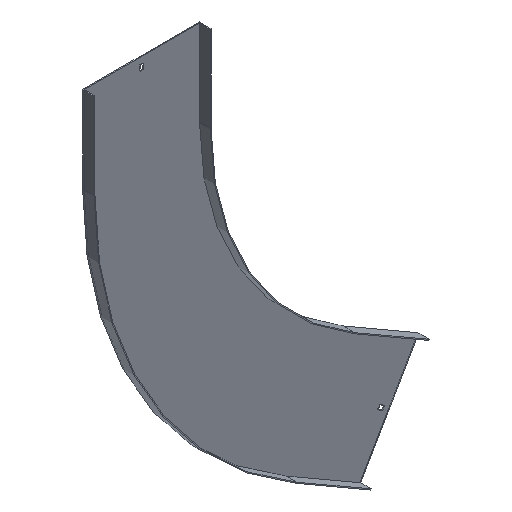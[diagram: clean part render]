
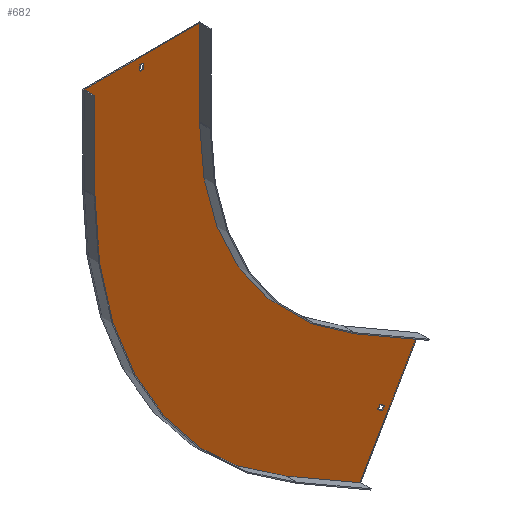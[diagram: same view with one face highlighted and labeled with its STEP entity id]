
A CAD part, isometric view. The second image highlights one B-rep face of the part: STEP entity #682.
In plain terms, the highlighted planar face has unit normal (0, -1, 0).
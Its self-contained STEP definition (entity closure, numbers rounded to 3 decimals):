
#3 = VERTEX_POINT ( 'NONE', #848 ) ;
#4 = DIRECTION ( 'NONE',  ( 1., 0., 0. ) ) ;
#10 = CARTESIAN_POINT ( 'NONE',  ( 0., -1.5, 0. ) ) ;
#11 = ORIENTED_EDGE ( 'NONE', *, *, #254, .F. ) ;
#17 = CARTESIAN_POINT ( 'NONE',  ( -500., -1.5, 0. ) ) ;
#25 = ORIENTED_EDGE ( 'NONE', *, *, #266, .F. ) ;
#45 = ORIENTED_EDGE ( 'NONE', *, *, #577, .F. ) ;
#53 = EDGE_CURVE ( 'NONE', #135, #346, #319, .T. ) ;
#65 = LINE ( 'NONE', #584, #726 ) ;
#68 = CARTESIAN_POINT ( 'NONE',  ( 119.512, -1.5, -69. ) ) ;
#70 = LINE ( 'NONE', #600, #640 ) ;
#71 = CARTESIAN_POINT ( 'NONE',  ( -182.113, -1.5, -591.43 ) ) ;
#73 = VERTEX_POINT ( 'NONE', #583 ) ;
#75 = CARTESIAN_POINT ( 'NONE',  ( 111.717, -1.5, -64.5 ) ) ;
#77 = CIRCLE ( 'NONE', #586, 700. ) ;
#85 = FACE_BOUND ( 'NONE', #338, .T. ) ;
#93 = VERTEX_POINT ( 'NONE', #781 ) ;
#103 = LINE ( 'NONE', #755, #592 ) ;
#128 = CARTESIAN_POINT ( 'NONE',  ( -220.096, -1.5, -681.218 ) ) ;
#130 = EDGE_LOOP ( 'NONE', ( #837, #552, #339, #220 ) ) ;
#135 = VERTEX_POINT ( 'NONE', #128 ) ;
#136 = LINE ( 'NONE', #821, #257 ) ;
#141 = LINE ( 'NONE', #466, #342 ) ;
#154 = DIRECTION ( 'NONE',  ( 0.866, 0., -0.5 ) ) ;
#156 = DIRECTION ( 'NONE',  ( 0., 0., -1. ) ) ;
#166 = VECTOR ( 'NONE', #846, 1000. ) ;
#167 = VERTEX_POINT ( 'NONE', #71 ) ;
#204 = EDGE_LOOP ( 'NONE', ( #567, #430, #11, #747, #710, #45, #490, #25 ) ) ;
#206 = CARTESIAN_POINT ( 'NONE',  ( -500., -1.5, 150. ) ) ;
#210 = DIRECTION ( 'NONE',  ( -0.5, 0., -0.866 ) ) ;
#214 = VERTEX_POINT ( 'NONE', #749 ) ;
#216 = DIRECTION ( 'NONE',  ( -0.5, 0., -0.866 ) ) ;
#220 = ORIENTED_EDGE ( 'NONE', *, *, #740, .F. ) ;
#228 = DIRECTION ( 'NONE',  ( 0., 0., 1. ) ) ;
#233 = VERTEX_POINT ( 'NONE', #288 ) ;
#235 = CIRCLE ( 'NONE', #669, 500. ) ;
#236 = CARTESIAN_POINT ( 'NONE',  ( -298.375, -1.5, -516.801 ) ) ;
#254 = EDGE_CURVE ( 'NONE', #346, #3, #77, .T. ) ;
#257 = VECTOR ( 'NONE', #672, 1000. ) ;
#266 = EDGE_CURVE ( 'NONE', #233, #762, #663, .T. ) ;
#272 = EDGE_CURVE ( 'NONE', #214, #167, #141, .T. ) ;
#279 = LINE ( 'NONE', #471, #785 ) ;
#288 = CARTESIAN_POINT ( 'NONE',  ( -500., -1.5, 150. ) ) ;
#291 = CARTESIAN_POINT ( 'NONE',  ( 0., -1.5, 0. ) ) ;
#299 = EDGE_CURVE ( 'NONE', #768, #646, #279, .T. ) ;
#302 = CARTESIAN_POINT ( 'NONE',  ( -178.863, -1.5, -585.801 ) ) ;
#304 = EDGE_CURVE ( 'NONE', #167, #649, #480, .T. ) ;
#319 = LINE ( 'NONE', #792, #387 ) ;
#326 = DIRECTION ( 'NONE',  ( 1., 0., 0. ) ) ;
#329 = EDGE_CURVE ( 'NONE', #535, #135, #397, .T. ) ;
#338 = EDGE_LOOP ( 'NONE', ( #654, #613, #604, #579 ) ) ;
#339 = ORIENTED_EDGE ( 'NONE', *, *, #272, .F. ) ;
#340 = EDGE_CURVE ( 'NONE', #760, #768, #136, .T. ) ;
#342 = VECTOR ( 'NONE', #757, 1000. ) ;
#343 = DIRECTION ( 'NONE',  ( 0., 0., -1. ) ) ;
#345 = LINE ( 'NONE', #566, #166 ) ;
#346 = VERTEX_POINT ( 'NONE', #753 ) ;
#353 = DIRECTION ( 'NONE',  ( 0., 1., 0. ) ) ;
#355 = PLANE ( 'NONE',  #805 ) ;
#369 = EDGE_CURVE ( 'NONE', #646, #73, #70, .T. ) ;
#387 = VECTOR ( 'NONE', #854, 1000. ) ;
#397 = LINE ( 'NONE', #545, #680 ) ;
#405 = LINE ( 'NONE', #236, #616 ) ;
#414 = DIRECTION ( 'NONE',  ( 0., 0., -1. ) ) ;
#422 = LINE ( 'NONE', #688, #546 ) ;
#430 = ORIENTED_EDGE ( 'NONE', *, *, #467, .F. ) ;
#443 = VECTOR ( 'NONE', #216, 1000. ) ;
#448 = DIRECTION ( 'NONE',  ( 0., 0., -1. ) ) ;
#451 = EDGE_CURVE ( 'NONE', #762, #526, #235, .T. ) ;
#466 = CARTESIAN_POINT ( 'NONE',  ( -301.625, -1.5, -522.43 ) ) ;
#467 = EDGE_CURVE ( 'NONE', #3, #93, #422, .T. ) ;
#471 = CARTESIAN_POINT ( 'NONE',  ( -603.25, -1.5, 0. ) ) ;
#479 = CARTESIAN_POINT ( 'NONE',  ( -120.096, -1.5, -508.013 ) ) ;
#480 = LINE ( 'NONE', #68, #775 ) ;
#481 = CARTESIAN_POINT ( 'NONE',  ( -186.658, -1.5, -581.301 ) ) ;
#490 = ORIENTED_EDGE ( 'NONE', *, *, #451, .F. ) ;
#496 = FACE_BOUND ( 'NONE', #130, .T. ) ;
#512 = CARTESIAN_POINT ( 'NONE',  ( 0., -1.5, 0. ) ) ;
#526 = VERTEX_POINT ( 'NONE', #554 ) ;
#530 = VECTOR ( 'NONE', #343, 1000. ) ;
#535 = VERTEX_POINT ( 'NONE', #479 ) ;
#545 = CARTESIAN_POINT ( 'NONE',  ( -119.346, -1.5, -506.714 ) ) ;
#546 = VECTOR ( 'NONE', #228, 1000. ) ;
#552 = ORIENTED_EDGE ( 'NONE', *, *, #304, .F. ) ;
#554 = CARTESIAN_POINT ( 'NONE',  ( -250., -1.5, -433.013 ) ) ;
#566 = CARTESIAN_POINT ( 'NONE',  ( -596.75, -1.5, 0. ) ) ;
#567 = ORIENTED_EDGE ( 'NONE', *, *, #824, .F. ) ;
#577 = EDGE_CURVE ( 'NONE', #526, #535, #103, .T. ) ;
#579 = ORIENTED_EDGE ( 'NONE', *, *, #299, .T. ) ;
#583 = CARTESIAN_POINT ( 'NONE',  ( -596.75, -1.5, 138. ) ) ;
#584 = CARTESIAN_POINT ( 'NONE',  ( -701.5, -1.5, 150. ) ) ;
#586 = AXIS2_PLACEMENT_3D ( 'NONE', #10, #353, #414 ) ;
#592 = VECTOR ( 'NONE', #154, 1000. ) ;
#600 = CARTESIAN_POINT ( 'NONE',  ( 0., -1.5, 138. ) ) ;
#603 = DIRECTION ( 'NONE',  ( -0.866, 0., 0.5 ) ) ;
#604 = ORIENTED_EDGE ( 'NONE', *, *, #340, .T. ) ;
#607 = CARTESIAN_POINT ( 'NONE',  ( -596.75, -1.5, 129. ) ) ;
#613 = ORIENTED_EDGE ( 'NONE', *, *, #659, .T. ) ;
#616 = VECTOR ( 'NONE', #603, 1000. ) ;
#618 = CARTESIAN_POINT ( 'NONE',  ( -603.25, -1.5, 129. ) ) ;
#619 = CARTESIAN_POINT ( 'NONE',  ( -603.25, -1.5, 138. ) ) ;
#640 = VECTOR ( 'NONE', #326, 1000. ) ;
#646 = VERTEX_POINT ( 'NONE', #619 ) ;
#649 = VERTEX_POINT ( 'NONE', #302 ) ;
#654 = ORIENTED_EDGE ( 'NONE', *, *, #369, .T. ) ;
#659 = EDGE_CURVE ( 'NONE', #73, #760, #345, .T. ) ;
#663 = LINE ( 'NONE', #206, #530 ) ;
#669 = AXIS2_PLACEMENT_3D ( 'NONE', #512, #782, #448 ) ;
#672 = DIRECTION ( 'NONE',  ( -1., 0., 0. ) ) ;
#678 = LINE ( 'NONE', #75, #443 ) ;
#680 = VECTOR ( 'NONE', #210, 1000. ) ;
#682 = ADVANCED_FACE ( 'NONE', ( #496, #685, #85 ), #355, .T. ) ;
#685 = FACE_OUTER_BOUND ( 'NONE', #204, .T. ) ;
#688 = CARTESIAN_POINT ( 'NONE',  ( -700., -1.5, 0. ) ) ;
#710 = ORIENTED_EDGE ( 'NONE', *, *, #329, .F. ) ;
#726 = VECTOR ( 'NONE', #4, 1000. ) ;
#740 = EDGE_CURVE ( 'NONE', #752, #214, #678, .T. ) ;
#747 = ORIENTED_EDGE ( 'NONE', *, *, #53, .F. ) ;
#749 = CARTESIAN_POINT ( 'NONE',  ( -189.908, -1.5, -586.93 ) ) ;
#752 = VERTEX_POINT ( 'NONE', #481 ) ;
#753 = CARTESIAN_POINT ( 'NONE',  ( -350., -1.5, -606.218 ) ) ;
#755 = CARTESIAN_POINT ( 'NONE',  ( -250., -1.5, -433.013 ) ) ;
#757 = DIRECTION ( 'NONE',  ( 0.866, 0., -0.5 ) ) ;
#760 = VERTEX_POINT ( 'NONE', #607 ) ;
#762 = VERTEX_POINT ( 'NONE', #17 ) ;
#766 = DIRECTION ( 'NONE',  ( 0., -1., 0. ) ) ;
#768 = VERTEX_POINT ( 'NONE', #618 ) ;
#775 = VECTOR ( 'NONE', #819, 1000. ) ;
#781 = CARTESIAN_POINT ( 'NONE',  ( -700., -1.5, 150. ) ) ;
#782 = DIRECTION ( 'NONE',  ( 0., -1., 0. ) ) ;
#785 = VECTOR ( 'NONE', #803, 1000. ) ;
#786 = EDGE_CURVE ( 'NONE', #649, #752, #405, .T. ) ;
#792 = CARTESIAN_POINT ( 'NONE',  ( -220.096, -1.5, -681.218 ) ) ;
#803 = DIRECTION ( 'NONE',  ( 0., 0., 1. ) ) ;
#805 = AXIS2_PLACEMENT_3D ( 'NONE', #291, #766, #156 ) ;
#819 = DIRECTION ( 'NONE',  ( 0.5, 0., 0.866 ) ) ;
#821 = CARTESIAN_POINT ( 'NONE',  ( 0., -1.5, 129. ) ) ;
#824 = EDGE_CURVE ( 'NONE', #93, #233, #65, .T. ) ;
#837 = ORIENTED_EDGE ( 'NONE', *, *, #786, .F. ) ;
#846 = DIRECTION ( 'NONE',  ( 0., 0., -1. ) ) ;
#848 = CARTESIAN_POINT ( 'NONE',  ( -700., -1.5, 0. ) ) ;
#854 = DIRECTION ( 'NONE',  ( -0.866, 0., 0.5 ) ) ;
